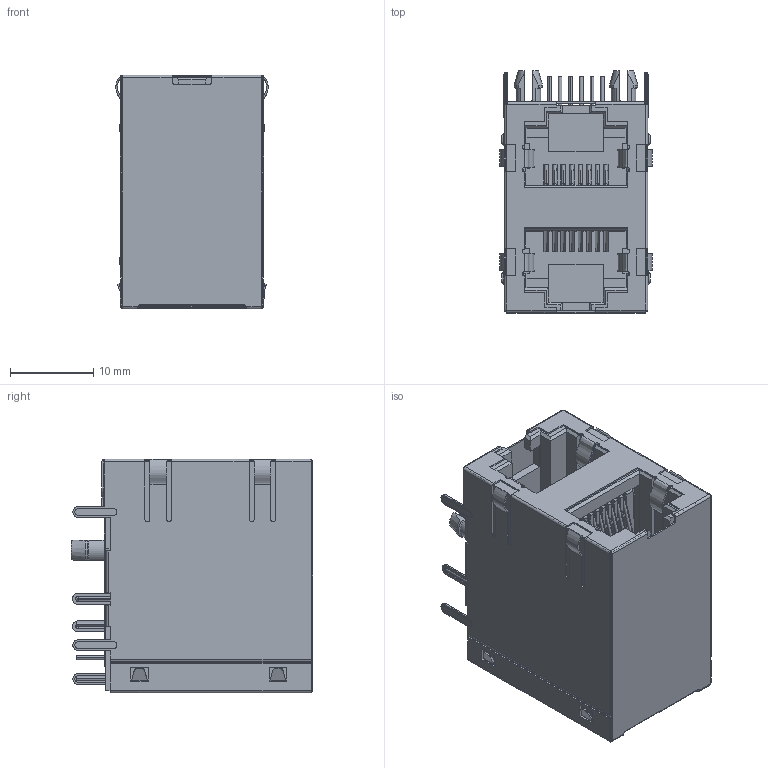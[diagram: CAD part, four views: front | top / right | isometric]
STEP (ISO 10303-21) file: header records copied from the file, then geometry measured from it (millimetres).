
FILE_DESCRIPTION((''),'2;1');
FILE_NAME('ASM0001_ASM','2019-09-27T15:49:54',('Administrator'),(''),'CREO PARAMETRIC BY PTC INC, 2018400','CREO PARAMETRIC BY PTC INC, 2018400','');
FILE_SCHEMA(('CONFIG_CONTROL_DESIGN'));
Length unit declared in the file: millimetre
Products named in the file (8): PRT0006; PRT0008; PRT0007; PRT0004; PRT0009; PRT0010; ASM0002_ASM; ASM0001_ASM
Assembly tree (7 placements, depth 3):
  ASM0001_ASM
    PRT0006
    PRT0008
    PRT0007
    PRT0004
    ASM0002_ASM
      PRT0009
      PRT0010
Bounding box: 18.27 x 29 x 28 mm (x, y, z)
Volume: 7502 mm3; surface area: 17164.6 mm2
Topology: 30 solids, 30 shells, 1430 faces, 3892 edges, 2488 vertices
Faces by surface type: plane 960, cylinder 358, torus 64, cone 24, extrusion 16, bspline 8
Entity records: 46668 total; most frequent: CARTESIAN_POINT 10005, ORIENTED_EDGE 7784, DIRECTION 7407, EDGE_CURVE 3892, VECTOR 2945, LINE 2929, VERTEX_POINT 2488, AXIS2_PLACEMENT_3D 2231
